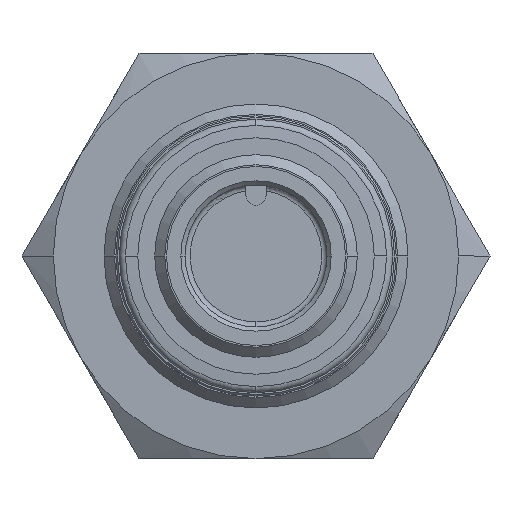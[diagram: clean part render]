
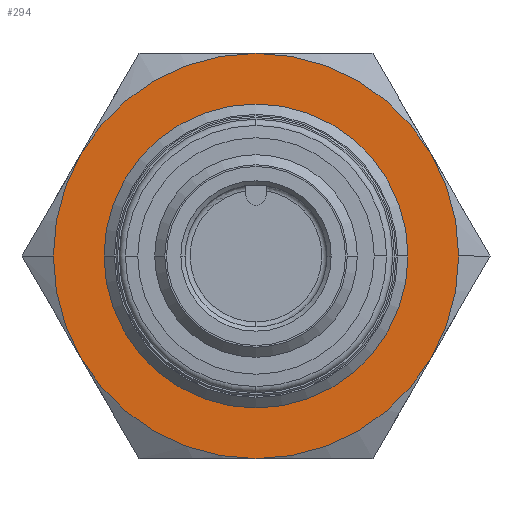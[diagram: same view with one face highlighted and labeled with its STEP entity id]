
A CAD part, left-side view. The second image highlights one B-rep face of the part: STEP entity #294.
In plain terms, the highlighted planar face has unit normal (-1, 0, 0).
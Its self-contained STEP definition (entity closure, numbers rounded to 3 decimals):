
#294 = ADVANCED_FACE( '', ( #553, #554 ), #555, .T. );
#553 = FACE_BOUND( '', #813, .T. );
#554 = FACE_OUTER_BOUND( '', #814, .T. );
#555 = PLANE( '', #815 );
#813 = EDGE_LOOP( '', ( #1725, #1726 ) );
#814 = EDGE_LOOP( '', ( #1727, #1728, #1729, #1730, #1731, #1732, #1733, #1734 ) );
#815 = AXIS2_PLACEMENT_3D( '', #1735, #1736, #1737 );
#1725 = ORIENTED_EDGE( '', *, *, #1974, .T. );
#1726 = ORIENTED_EDGE( '', *, *, #1962, .T. );
#1727 = ORIENTED_EDGE( '', *, *, #2012, .T. );
#1728 = ORIENTED_EDGE( '', *, *, #1951, .T. );
#1729 = ORIENTED_EDGE( '', *, *, #2007, .T. );
#1730 = ORIENTED_EDGE( '', *, *, #2008, .T. );
#1731 = ORIENTED_EDGE( '', *, *, #1953, .T. );
#1732 = ORIENTED_EDGE( '', *, *, #2009, .T. );
#1733 = ORIENTED_EDGE( '', *, *, #2010, .T. );
#1734 = ORIENTED_EDGE( '', *, *, #2011, .T. );
#1735 = CARTESIAN_POINT( '', ( 46., 6., 0. ) );
#1736 = DIRECTION( '', ( -1., 0., 0. ) );
#1737 = DIRECTION( '', ( 0., 1., 0. ) );
#1951 = EDGE_CURVE( '', #2354, #2356, #2358, .T. );
#1953 = EDGE_CURVE( '', #2362, #2359, #2363, .T. );
#1962 = EDGE_CURVE( '', #2380, #2377, #2381, .T. );
#1974 = EDGE_CURVE( '', #2377, #2380, #2398, .T. );
#2007 = EDGE_CURVE( '', #2356, #2404, #2447, .T. );
#2008 = EDGE_CURVE( '', #2404, #2362, #2448, .T. );
#2009 = EDGE_CURVE( '', #2359, #2435, #2449, .T. );
#2010 = EDGE_CURVE( '', #2435, #2427, #2450, .T. );
#2011 = EDGE_CURVE( '', #2427, #2414, #2451, .T. );
#2012 = EDGE_CURVE( '', #2414, #2354, #2452, .T. );
#2354 = VERTEX_POINT( '', #3376 );
#2356 = VERTEX_POINT( '', #3379 );
#2358 = CIRCLE( '', #3390, 12. );
#2359 = VERTEX_POINT( '', #3391 );
#2362 = VERTEX_POINT( '', #3395 );
#2363 = CIRCLE( '', #3396, 12. );
#2377 = VERTEX_POINT( '', #3439 );
#2380 = VERTEX_POINT( '', #3443 );
#2381 = CIRCLE( '', #3444, 9. );
#2398 = CIRCLE( '', #3466, 9. );
#2404 = VERTEX_POINT( '', #3482 );
#2414 = VERTEX_POINT( '', #3530 );
#2427 = VERTEX_POINT( '', #3607 );
#2435 = VERTEX_POINT( '', #3652 );
#2447 = CIRCLE( '', #3701, 12. );
#2448 = CIRCLE( '', #3702, 12. );
#2449 = CIRCLE( '', #3703, 12. );
#2450 = CIRCLE( '', #3704, 12. );
#2451 = CIRCLE( '', #3705, 12. );
#2452 = CIRCLE( '', #3706, 12. );
#3376 = CARTESIAN_POINT( '', ( 46., 12., 0. ) );
#3379 = CARTESIAN_POINT( '', ( 46., 10.392, -6. ) );
#3390 = AXIS2_PLACEMENT_3D( '', #4055, #4056, #4057 );
#3391 = CARTESIAN_POINT( '', ( 46., -12., 0. ) );
#3395 = CARTESIAN_POINT( '', ( 46., -10.392, -6. ) );
#3396 = AXIS2_PLACEMENT_3D( '', #4059, #4060, #4061 );
#3439 = CARTESIAN_POINT( '', ( 46., 9., 0. ) );
#3443 = CARTESIAN_POINT( '', ( 46., -9., 0. ) );
#3444 = AXIS2_PLACEMENT_3D( '', #4071, #4072, #4073 );
#3466 = AXIS2_PLACEMENT_3D( '', #4097, #4098, #4099 );
#3482 = CARTESIAN_POINT( '', ( 46., 0., -12. ) );
#3530 = CARTESIAN_POINT( '', ( 46., 10.392, 6. ) );
#3607 = CARTESIAN_POINT( '', ( 46., 0., 12. ) );
#3652 = CARTESIAN_POINT( '', ( 46., -10.392, 6. ) );
#3701 = AXIS2_PLACEMENT_3D( '', #4124, #4125, #4126 );
#3702 = AXIS2_PLACEMENT_3D( '', #4127, #4128, #4129 );
#3703 = AXIS2_PLACEMENT_3D( '', #4130, #4131, #4132 );
#3704 = AXIS2_PLACEMENT_3D( '', #4133, #4134, #4135 );
#3705 = AXIS2_PLACEMENT_3D( '', #4136, #4137, #4138 );
#3706 = AXIS2_PLACEMENT_3D( '', #4139, #4140, #4141 );
#4055 = CARTESIAN_POINT( '', ( 46., 0., 0. ) );
#4056 = DIRECTION( '', ( -1., 0., 0. ) );
#4057 = DIRECTION( '', ( 0., 1., 0. ) );
#4059 = CARTESIAN_POINT( '', ( 46., 0., 0. ) );
#4060 = DIRECTION( '', ( -1., 0., 0. ) );
#4061 = DIRECTION( '', ( 0., 1., 0. ) );
#4071 = CARTESIAN_POINT( '', ( 46., 0., 0. ) );
#4072 = DIRECTION( '', ( 1., 0., 0. ) );
#4073 = DIRECTION( '', ( 0., 1., 0. ) );
#4097 = CARTESIAN_POINT( '', ( 46., 0., 0. ) );
#4098 = DIRECTION( '', ( 1., 0., 0. ) );
#4099 = DIRECTION( '', ( 0., 1., 0. ) );
#4124 = CARTESIAN_POINT( '', ( 46., 0., 0. ) );
#4125 = DIRECTION( '', ( -1., 0., 0. ) );
#4126 = DIRECTION( '', ( 0., 1., 0. ) );
#4127 = CARTESIAN_POINT( '', ( 46., 0., 0. ) );
#4128 = DIRECTION( '', ( -1., 0., 0. ) );
#4129 = DIRECTION( '', ( 0., 1., 0. ) );
#4130 = CARTESIAN_POINT( '', ( 46., 0., 0. ) );
#4131 = DIRECTION( '', ( -1., 0., 0. ) );
#4132 = DIRECTION( '', ( 0., 1., 0. ) );
#4133 = CARTESIAN_POINT( '', ( 46., 0., 0. ) );
#4134 = DIRECTION( '', ( -1., 0., 0. ) );
#4135 = DIRECTION( '', ( 0., 1., 0. ) );
#4136 = CARTESIAN_POINT( '', ( 46., 0., 0. ) );
#4137 = DIRECTION( '', ( -1., 0., 0. ) );
#4138 = DIRECTION( '', ( 0., 1., 0. ) );
#4139 = CARTESIAN_POINT( '', ( 46., 0., 0. ) );
#4140 = DIRECTION( '', ( -1., 0., 0. ) );
#4141 = DIRECTION( '', ( 0., 1., 0. ) );
